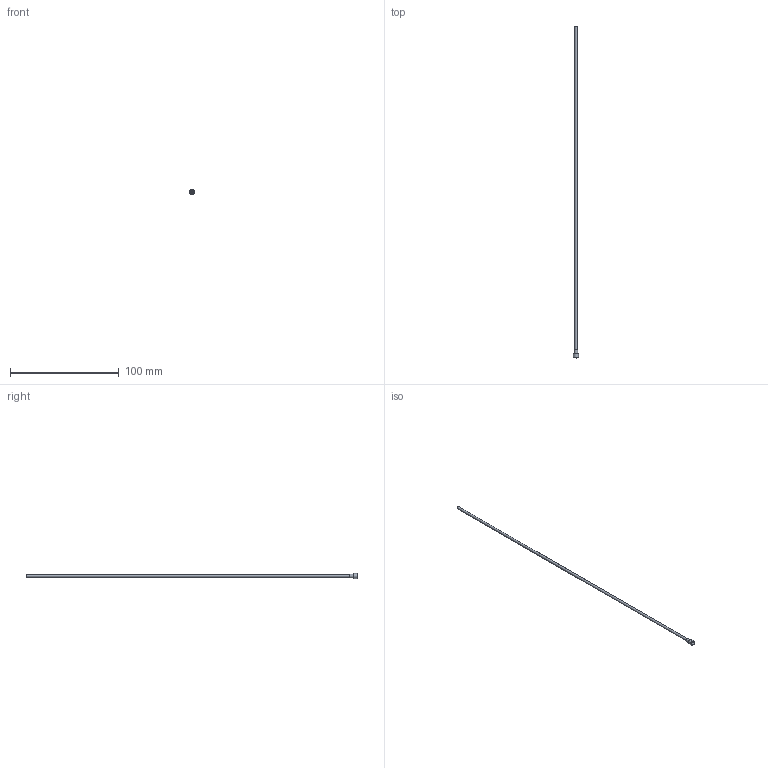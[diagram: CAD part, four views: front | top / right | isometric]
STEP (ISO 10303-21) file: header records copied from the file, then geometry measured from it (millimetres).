
FILE_DESCRIPTION(/* description */ (''),/* implementation_level */ '2;1');
FILE_NAME(/* name */ 'C:/Users/drich/Desktop/R093T-12 v1.step',/* time_stamp */ '2019-12-30T13:11:15-06:00',/* author */ (''),/* organization */ (''),/* preprocessor_version */ 'ST-DEVELOPER v18',/* originating_system */ 'Autodesk Translation Framework v8.12.0.6',/* authorisation */ '');
FILE_SCHEMA (('AUTOMOTIVE_DESIGN { 1 0 10303 214 3 1 1 }'));
Length unit declared in the file: inch
Products named in the file (1): R093T-12
Bounding box: 4.62 x 304.8 x 4.62 mm (x, y, z)
Volume: 402.2 mm3; surface area: 4117.2 mm2
Topology: 1 solids, 1 shells, 19 faces, 47 edges, 33 vertices
Faces by surface type: plane 11, cylinder 4, torus 3, cone 1
Full cylindrical faces by diameter (mm): 1.93 x1, 2.286 x1, 3.096 x1, 4.623 x1
Entity records: 624 total; most frequent: DIRECTION 111, CARTESIAN_POINT 100, ORIENTED_EDGE 94, EDGE_CURVE 47, AXIS2_PLACEMENT_3D 44, VERTEX_POINT 33, EDGE_LOOP 24, CIRCLE 24
